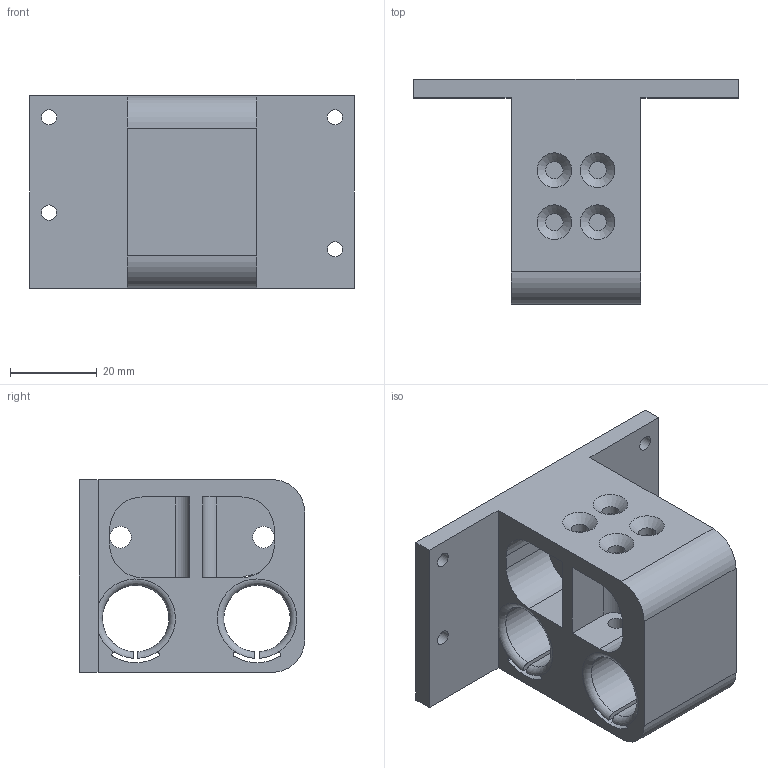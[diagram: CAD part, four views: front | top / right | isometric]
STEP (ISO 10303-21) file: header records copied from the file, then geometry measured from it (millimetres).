
FILE_DESCRIPTION(/* description */ (''),/* implementation_level */ '2;1');
FILE_NAME(/* name */ 'C:/Users/longl/OneDrive/Documents/OpenBox Builds/Parts/X-Axis_Y-Axis/Extruder Mount/Extruder_Mount_Wham-Bam-Mutant.step',/* time_stamp */ '2021-09-26T12:28:13-04:00',/* author */ (''),/* organization */ (''),/* preprocessor_version */ 'ST-DEVELOPER v18.1',/* originating_system */ 'Autodesk Translation Framework v10.10.0.1391',/* authorisation */ '');
FILE_SCHEMA (('AUTOMOTIVE_DESIGN { 1 0 10303 214 3 1 1 }'));
Length unit declared in the file: millimetre
Products named in the file (1): Extruder Mounting Plate - Wham Bam Mutant V2
Bounding box: 75 x 52 x 44.5 mm (x, y, z)
Volume: 48413.4 mm3; surface area: 21898.6 mm2
Topology: 1 solids, 1 shells, 85 faces, 231 edges, 148 vertices
Faces by surface type: cylinder 40, plane 37, torus 4, cone 4
Full cylindrical faces by diameter (mm): 3.5 x4, 4 x8, 5 x2
Entity records: 2841 total; most frequent: CARTESIAN_POINT 557, DIRECTION 487, ORIENTED_EDGE 462, EDGE_CURVE 231, AXIS2_PLACEMENT_3D 180, VERTEX_POINT 148, LINE 127, VECTOR 127
